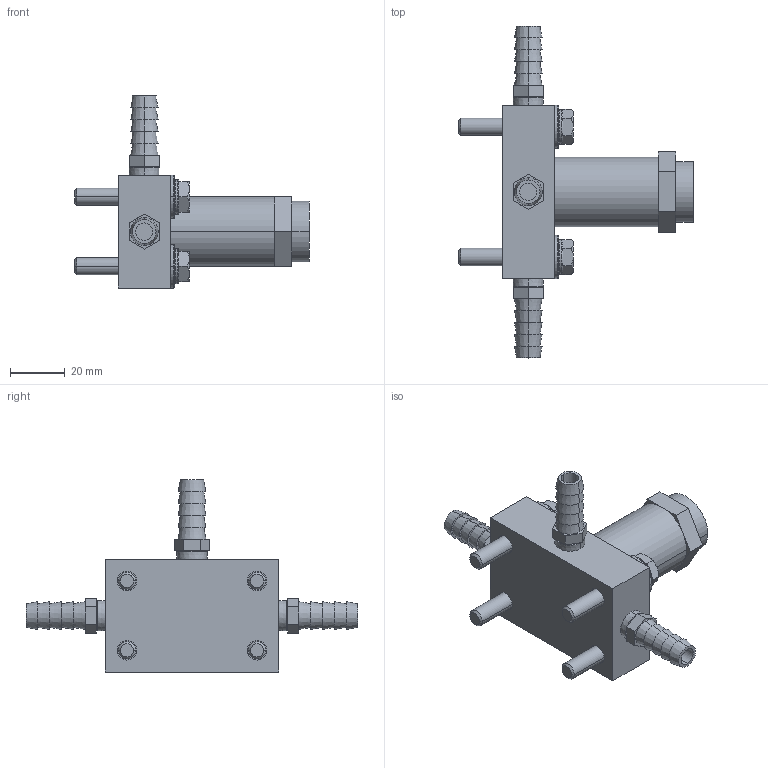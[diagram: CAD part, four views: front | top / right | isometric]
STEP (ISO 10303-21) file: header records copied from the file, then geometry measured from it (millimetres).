
FILE_DESCRIPTION((''),'2;1');
FILE_NAME('UL2_ASM','2017-08-24T',('jennifer.elliott'),('CenterLine (Windsor) Ltd - Automation Components Division'),'PRO/ENGINEER BY PARAMETRIC TECHNOLOGY CORPORATION, 2015030','PRO/ENGINEER BY PARAMETRIC TECHNOLOGY CORPORATION, 2015030','');
FILE_SCHEMA(('AUTOMOTIVE_DESIGN { 1 0 10303 214 1 1 1 1 }'));
Length unit declared in the file: inch
Products named in the file (17): PRT0613; PRT0614; PRT0615; PRT0616; PRT0617; PRT0618; PRT0619; PRT0620; PRT0621; PRT0622; PRT0623; TMP_DWG-3DSOLID_45_ASM; PRT0624; PRT0625; TMP_DWG-3DSOLID_74; TMP_DWG-3DSOLID_89; UL2_ASM
Assembly tree (16 placements, depth 3):
  UL2_ASM
    PRT0613
    PRT0614
    PRT0615
    PRT0616
    PRT0617
    PRT0618
    PRT0619
    TMP_DWG-3DSOLID_45_ASM
      PRT0620
      PRT0621
      PRT0622
      PRT0623
    PRT0624
    PRT0625
    TMP_DWG-3DSOLID_74
    TMP_DWG-3DSOLID_89
Bounding box: 85.72 x 121.41 x 70.23 mm (x, y, z)
Volume: 84110.3 mm3; surface area: 29443.1 mm2
Topology: 15 solids, 15 shells, 263 faces, 604 edges, 396 vertices
Faces by surface type: plane 119, cone 68, cylinder 52, torus 24
Entity records: 8918 total; most frequent: CARTESIAN_POINT 1798, DIRECTION 1392, ORIENTED_EDGE 1208, EDGE_CURVE 604, AXIS2_PLACEMENT_3D 576, VERTEX_POINT 396, EDGE_LOOP 310, CIRCLE 276
